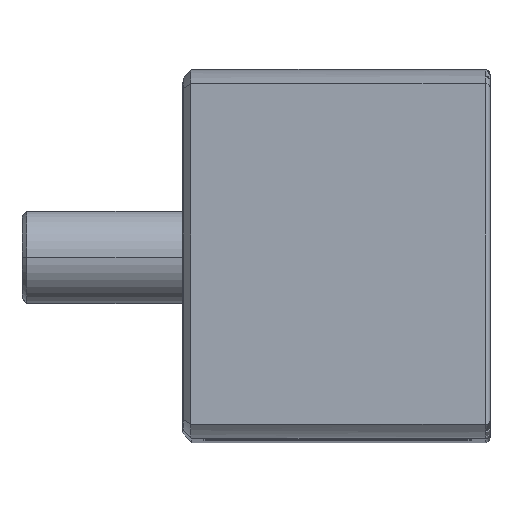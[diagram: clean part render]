
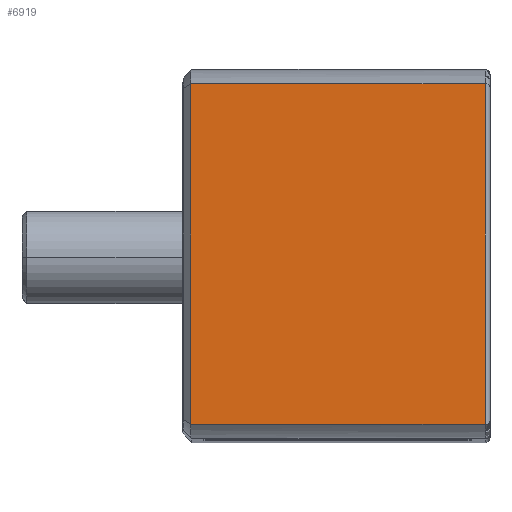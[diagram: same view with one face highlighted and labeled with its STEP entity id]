
A CAD part, top view. The second image highlights one B-rep face of the part: STEP entity #6919.
In plain terms, the highlighted planar face has unit normal (0, 0, 1).
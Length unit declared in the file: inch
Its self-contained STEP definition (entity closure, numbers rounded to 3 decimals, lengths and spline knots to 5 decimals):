
#374 = AXIS2_PLACEMENT_3D ( 'NONE', #5605, #1059, #3045 ) ;
#686 = VERTEX_POINT ( 'NONE', #6827 ) ;
#747 = CARTESIAN_POINT ( 'NONE',  ( -0.02, 0.69156, 7.005 ) ) ;
#1059 = DIRECTION ( 'NONE',  ( 0., 0., 1. ) ) ;
#1102 = ORIENTED_EDGE ( 'NONE', *, *, #6240, .T. ) ;
#1208 = VECTOR ( 'NONE', #7414, 39.37008 ) ;
#1552 = FACE_OUTER_BOUND ( 'NONE', #7982, .T. ) ;
#1693 = LINE ( 'NONE', #2990, #1208 ) ;
#1866 = LINE ( 'NONE', #747, #4956 ) ;
#2990 = CARTESIAN_POINT ( 'NONE',  ( -1.25, -0.69156, 7.005 ) ) ;
#3045 = DIRECTION ( 'NONE',  ( 0., -1., 0. ) ) ;
#3209 = CARTESIAN_POINT ( 'NONE',  ( -1.215, -0.69156, 7.005 ) ) ;
#3255 = ORIENTED_EDGE ( 'NONE', *, *, #6816, .T. ) ;
#3489 = DIRECTION ( 'NONE',  ( 0., -1., 0. ) ) ;
#3542 = CARTESIAN_POINT ( 'NONE',  ( -1.215, -0.69156, 7.005 ) ) ;
#3657 = CARTESIAN_POINT ( 'NONE',  ( -0.02, -0.69156, 7.005 ) ) ;
#4366 = EDGE_CURVE ( 'NONE', #5498, #7358, #1693, .T. ) ;
#4895 = EDGE_CURVE ( 'NONE', #7697, #686, #7673, .T. ) ;
#4956 = VECTOR ( 'NONE', #5898, 39.37008 ) ;
#5498 = VERTEX_POINT ( 'NONE', #3209 ) ;
#5515 = PLANE ( 'NONE',  #374 ) ;
#5569 = ORIENTED_EDGE ( 'NONE', *, *, #4366, .T. ) ;
#5585 = CARTESIAN_POINT ( 'NONE',  ( -1.215, 0.69156, 7.005 ) ) ;
#5605 = CARTESIAN_POINT ( 'NONE',  ( -1.25, -0.69156, 7.005 ) ) ;
#5898 = DIRECTION ( 'NONE',  ( 0., 1., 0. ) ) ;
#6240 = EDGE_CURVE ( 'NONE', #7358, #686, #1866, .T. ) ;
#6663 = VECTOR ( 'NONE', #8258, 39.37008 ) ;
#6816 = EDGE_CURVE ( 'NONE', #7697, #5498, #6929, .T. ) ;
#6827 = CARTESIAN_POINT ( 'NONE',  ( -0.02, 0.69156, 7.005 ) ) ;
#6886 = ORIENTED_EDGE ( 'NONE', *, *, #4895, .F. ) ;
#6919 = ADVANCED_FACE ( 'NONE', ( #1552 ), #5515, .T. ) ;
#6929 = LINE ( 'NONE', #3542, #7133 ) ;
#6989 = CARTESIAN_POINT ( 'NONE',  ( -1.25, 0.69156, 7.005 ) ) ;
#7133 = VECTOR ( 'NONE', #3489, 39.37008 ) ;
#7358 = VERTEX_POINT ( 'NONE', #3657 ) ;
#7414 = DIRECTION ( 'NONE',  ( 1., 0., 0. ) ) ;
#7673 = LINE ( 'NONE', #6989, #6663 ) ;
#7697 = VERTEX_POINT ( 'NONE', #5585 ) ;
#7982 = EDGE_LOOP ( 'NONE', ( #6886, #3255, #5569, #1102 ) ) ;
#8258 = DIRECTION ( 'NONE',  ( 1., 0., 0. ) ) ;
